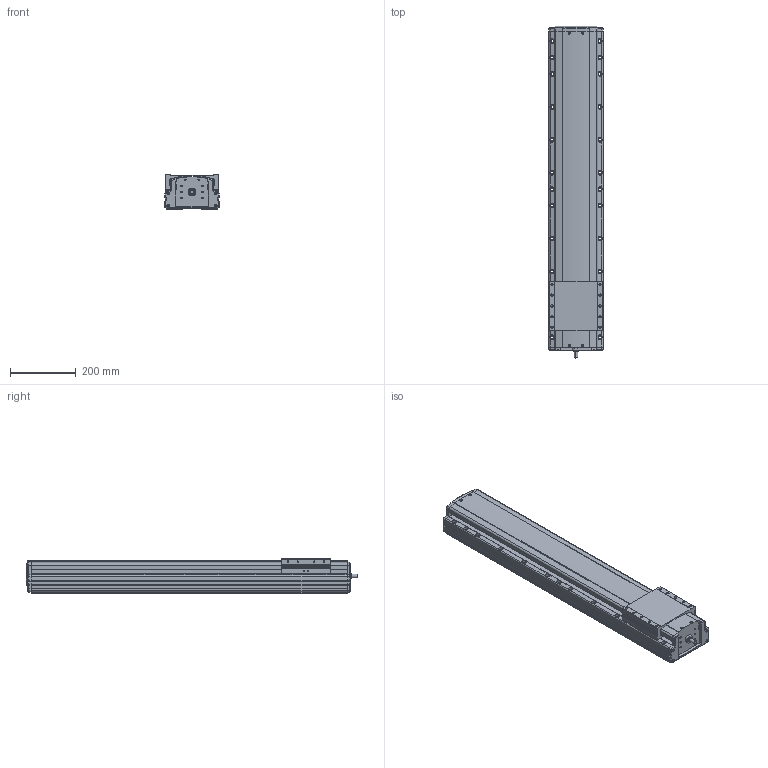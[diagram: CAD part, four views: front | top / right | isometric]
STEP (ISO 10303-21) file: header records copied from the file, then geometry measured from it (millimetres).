
FILE_DESCRIPTION(('STEP AP214'),'1');
FILE_NAME('Z:/Web/3D/PSA165/STP/PSA165-700 (3D)/PSA165ㅁㅁ-700.stp','2014-06-23T11:30:44',(' '),(' '),'Spatial InterOp 3D',' ',' ');
FILE_SCHEMA(('automotive_design'));
Length unit declared in the file: millimetre
Products named in the file (18): 스크루 : Round - M4.0 x 12.0; RRCV-PA160; BASE; 스크루 : Round - M4.0 x 10.0; RN15; Screw 20; SLIDE; FRCV
Bounding box: 165 x 1008.8 x 104 mm (x, y, z)
Volume: 13512330.4 mm3; surface area: 855439.6 mm2
Topology: 18 solids, 18 shells, 1939 faces, 5269 edges, 3361 vertices
Faces by surface type: plane 1048, cylinder 641, cone 177, sphere 32, bspline 25, torus 16
Entity records: 79616 total; most frequent: CARTESIAN_POINT 14605, DIRECTION 10297, ORIENTED_EDGE 10270, EDGE_CURVE 5135, LINE 3443, VECTOR 3443, AXIS2_PLACEMENT_3D 3427, VERTEX_POINT 3361
